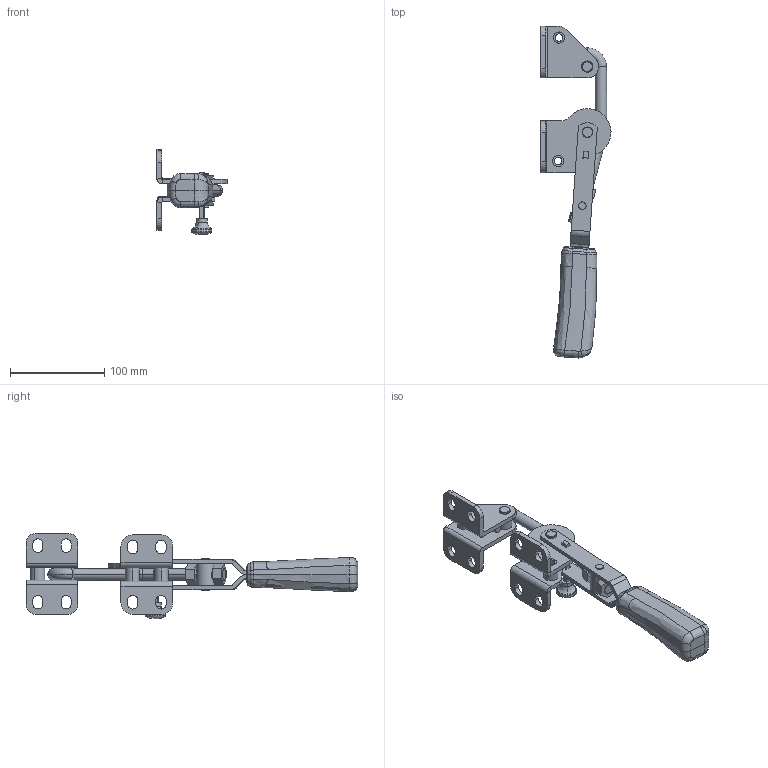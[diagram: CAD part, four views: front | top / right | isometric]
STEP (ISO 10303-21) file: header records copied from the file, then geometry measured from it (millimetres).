
FILE_DESCRIPTION (( 'STEP AP214' ), '1' );
FILE_NAME ('M46-5.STEP', '2023-06-07T14:40:50', ( '' ), ( '' ), 'SwSTEP 2.0', 'SolidWorks 2015', '' );
FILE_SCHEMA (( 'AUTOMOTIVE_DESIGN' ));
Length unit declared in the file: millimetre
Products named in the file (15): M46S-5_AYAK2; 847-5-3 ayak; M46S-5_AYAK1; M46S-5_ayak birlestirme burcu; 847-5-2; 847-5-6 somun; 847-5-4 ayak; M46-5; 847-5-9 percin; 847-5-10 percin; M46S-5_Mantar baslý tutamak; M46S-5_kilit; 847-5-1 kanca; 847-5-5 kol; 5
Assembly tree (18 placements, depth 2):
  M46-5
    847-5-5 kol
    M46S-5_AYAK1
    M46S-5_AYAK2
    M46S-5_kilit
    847-5-2
    M46S-5_ayak birlestirme burcu  x4
    847-5-1 kanca
    847-5-6 somun  x2
    847-5-3 ayak
    847-5-4 ayak
    5
    847-5-9 percin
    847-5-10 percin
    M46S-5_Mantar baslý tutamak
Bounding box: 74.3 x 351.88 x 90.23 mm (x, y, z)
Volume: 290626.9 mm3; surface area: 101020.2 mm2
Topology: 18 solids, 18 shells, 398 faces, 962 edges, 610 vertices
Faces by surface type: plane 158, cylinder 150, bspline 70, torus 20
Entity records: 17319 total; most frequent: CARTESIAN_POINT 6552, ORIENTED_EDGE 1724, DIRECTION 1565, EDGE_CURVE 862, AXIS2_PLACEMENT_3D 574, VERTEX_POINT 546, LINE 417, VECTOR 417
